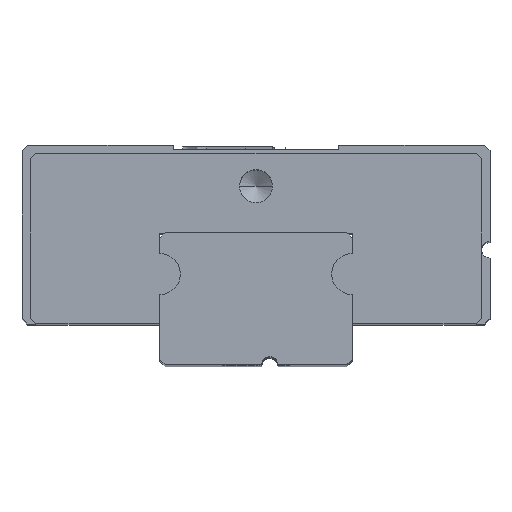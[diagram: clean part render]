
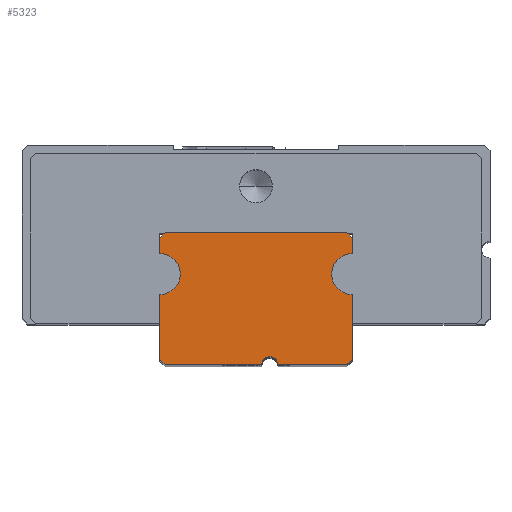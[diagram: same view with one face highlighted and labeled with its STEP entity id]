
A CAD part, top view. The second image highlights one B-rep face of the part: STEP entity #5323.
In plain terms, the highlighted planar face has unit normal (0, 0, 1).
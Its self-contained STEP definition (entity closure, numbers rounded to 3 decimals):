
#21 = DIRECTION ( 'NONE',  ( 0., 0., -1. ) ) ;
#78 = CARTESIAN_POINT ( 'NONE',  ( 3.3, 0., 20. ) ) ;
#110 = CARTESIAN_POINT ( 'NONE',  ( -3.3, 4.8, 20. ) ) ;
#224 = AXIS2_PLACEMENT_3D ( 'NONE', #7960, #5592, #5532 ) ;
#333 = ORIENTED_EDGE ( 'NONE', *, *, #2914, .T. ) ;
#421 = DIRECTION ( 'NONE',  ( 0., -1., 0. ) ) ;
#479 = ORIENTED_EDGE ( 'NONE', *, *, #6308, .F. ) ;
#492 = CARTESIAN_POINT ( 'NONE',  ( 2.75, 3.3, 20. ) ) ;
#527 = DIRECTION ( 'NONE',  ( 0.707, 0.707, 0. ) ) ;
#778 = DIRECTION ( 'NONE',  ( 0., 1., 0. ) ) ;
#830 = VECTOR ( 'NONE', #2478, 1000. ) ;
#833 = CIRCLE ( 'NONE', #10661, 0.75 ) ;
#944 = CARTESIAN_POINT ( 'NONE',  ( 3.5, 4.05, 20. ) ) ;
#987 = ORIENTED_EDGE ( 'NONE', *, *, #9708, .F. ) ;
#1003 = EDGE_CURVE ( 'NONE', #7687, #1557, #6541, .T. ) ;
#1040 = LINE ( 'NONE', #8556, #10302 ) ;
#1044 = VERTEX_POINT ( 'NONE', #6904 ) ;
#1159 = CARTESIAN_POINT ( 'NONE',  ( -3.5, 4.6, 20. ) ) ;
#1209 = EDGE_CURVE ( 'NONE', #4484, #9264, #5754, .T. ) ;
#1226 = DIRECTION ( 'NONE',  ( 0., 0., 1. ) ) ;
#1411 = VERTEX_POINT ( 'NONE', #110 ) ;
#1414 = CARTESIAN_POINT ( 'NONE',  ( 3.5, 0., 20. ) ) ;
#1487 = CARTESIAN_POINT ( 'NONE',  ( -3.5, 0.2, 20. ) ) ;
#1528 = CIRCLE ( 'NONE', #8031, 0.75 ) ;
#1551 = LINE ( 'NONE', #9991, #830 ) ;
#1557 = VERTEX_POINT ( 'NONE', #10778 ) ;
#1601 = VERTEX_POINT ( 'NONE', #8568 ) ;
#1685 = VERTEX_POINT ( 'NONE', #944 ) ;
#1746 = EDGE_CURVE ( 'NONE', #6903, #9264, #8682, .T. ) ;
#1757 = DIRECTION ( 'NONE',  ( 0., 0., -1. ) ) ;
#1768 = EDGE_CURVE ( 'NONE', #1044, #1601, #3636, .T. ) ;
#2037 = DIRECTION ( 'NONE',  ( 0., 0., -1. ) ) ;
#2215 = VECTOR ( 'NONE', #7882, 1000. ) ;
#2478 = DIRECTION ( 'NONE',  ( -1., 0., 0. ) ) ;
#2625 = EDGE_CURVE ( 'NONE', #7687, #1411, #1551, .T. ) ;
#2633 = EDGE_CURVE ( 'NONE', #1601, #8436, #4359, .T. ) ;
#2745 = EDGE_LOOP ( 'NONE', ( #8775, #8065, #10111, #6488, #9329, #7709, #7027, #987, #9202, #479, #6359, #8994, #333, #7120, #6106 ) ) ;
#2791 = VECTOR ( 'NONE', #9494, 1000. ) ;
#2801 = DIRECTION ( 'NONE',  ( -0.707, -0.707, 0. ) ) ;
#2861 = CARTESIAN_POINT ( 'NONE',  ( 3.5, 3.3, 20. ) ) ;
#2897 = LINE ( 'NONE', #1414, #8643 ) ;
#2914 = EDGE_CURVE ( 'NONE', #1685, #1557, #1040, .T. ) ;
#2925 = DIRECTION ( 'NONE',  ( -1., 0., 0. ) ) ;
#3061 = VERTEX_POINT ( 'NONE', #5431 ) ;
#3206 = VECTOR ( 'NONE', #6692, 1000. ) ;
#3236 = CARTESIAN_POINT ( 'NONE',  ( 3.5, 0.2, 20. ) ) ;
#3636 = CIRCLE ( 'NONE', #9742, 0.75 ) ;
#3759 = CARTESIAN_POINT ( 'NONE',  ( 3.5, 2.55, 20. ) ) ;
#4048 = CARTESIAN_POINT ( 'NONE',  ( -3.5, 0., 20. ) ) ;
#4097 = AXIS2_PLACEMENT_3D ( 'NONE', #10100, #1757, #6000 ) ;
#4359 = LINE ( 'NONE', #8411, #5059 ) ;
#4366 = CARTESIAN_POINT ( 'NONE',  ( 0.8, 0., 20. ) ) ;
#4371 = LINE ( 'NONE', #6780, #2791 ) ;
#4484 = VERTEX_POINT ( 'NONE', #6043 ) ;
#4668 = VECTOR ( 'NONE', #527, 1000. ) ;
#4698 = CARTESIAN_POINT ( 'NONE',  ( -3.5, 3.3, 20. ) ) ;
#4836 = LINE ( 'NONE', #3236, #4668 ) ;
#4931 = EDGE_CURVE ( 'NONE', #6903, #1044, #7552, .T. ) ;
#4933 = EDGE_CURVE ( 'NONE', #8546, #1685, #833, .T. ) ;
#5059 = VECTOR ( 'NONE', #8513, 1000. ) ;
#5210 = DIRECTION ( 'NONE',  ( 0., 1., 0. ) ) ;
#5323 = ADVANCED_FACE ( 'NONE', ( #6566 ), #10812, .F. ) ;
#5431 = CARTESIAN_POINT ( 'NONE',  ( 3.5, 0.2, 20. ) ) ;
#5501 = EDGE_CURVE ( 'NONE', #1411, #8436, #10368, .T. ) ;
#5532 = DIRECTION ( 'NONE',  ( -1., 0., 0. ) ) ;
#5592 = DIRECTION ( 'NONE',  ( 0., 0., -1. ) ) ;
#5743 = VERTEX_POINT ( 'NONE', #78 ) ;
#5754 = LINE ( 'NONE', #7404, #3206 ) ;
#6000 = DIRECTION ( 'NONE',  ( 0., -1., 0. ) ) ;
#6043 = CARTESIAN_POINT ( 'NONE',  ( 0.2, 0., 20. ) ) ;
#6106 = ORIENTED_EDGE ( 'NONE', *, *, #2625, .T. ) ;
#6285 = EDGE_CURVE ( 'NONE', #4484, #6751, #8806, .T. ) ;
#6308 = EDGE_CURVE ( 'NONE', #6847, #3061, #2897, .T. ) ;
#6359 = ORIENTED_EDGE ( 'NONE', *, *, #8582, .T. ) ;
#6488 = ORIENTED_EDGE ( 'NONE', *, *, #4931, .F. ) ;
#6541 = LINE ( 'NONE', #9032, #10184 ) ;
#6566 = FACE_OUTER_BOUND ( 'NONE', #2745, .T. ) ;
#6692 = DIRECTION ( 'NONE',  ( -1., 0., 0. ) ) ;
#6751 = VERTEX_POINT ( 'NONE', #4366 ) ;
#6780 = CARTESIAN_POINT ( 'NONE',  ( 0.5, 0., 20. ) ) ;
#6847 = VERTEX_POINT ( 'NONE', #3759 ) ;
#6903 = VERTEX_POINT ( 'NONE', #1487 ) ;
#6904 = CARTESIAN_POINT ( 'NONE',  ( -3.5, 2.55, 20. ) ) ;
#7027 = ORIENTED_EDGE ( 'NONE', *, *, #6285, .T. ) ;
#7120 = ORIENTED_EDGE ( 'NONE', *, *, #1003, .F. ) ;
#7294 = CARTESIAN_POINT ( 'NONE',  ( -3.3, 0., 20. ) ) ;
#7404 = CARTESIAN_POINT ( 'NONE',  ( 0.5, 0., 20. ) ) ;
#7430 = VECTOR ( 'NONE', #2801, 1000. ) ;
#7552 = LINE ( 'NONE', #4048, #7677 ) ;
#7677 = VECTOR ( 'NONE', #778, 1000. ) ;
#7687 = VERTEX_POINT ( 'NONE', #8943 ) ;
#7709 = ORIENTED_EDGE ( 'NONE', *, *, #1209, .F. ) ;
#7882 = DIRECTION ( 'NONE',  ( 0.707, -0.707, 0. ) ) ;
#7960 = CARTESIAN_POINT ( 'NONE',  ( 0.5, 0., 20. ) ) ;
#8031 = AXIS2_PLACEMENT_3D ( 'NONE', #2861, #2037, #2925 ) ;
#8065 = ORIENTED_EDGE ( 'NONE', *, *, #2633, .F. ) ;
#8411 = CARTESIAN_POINT ( 'NONE',  ( -3.5, 0., 20. ) ) ;
#8436 = VERTEX_POINT ( 'NONE', #9995 ) ;
#8513 = DIRECTION ( 'NONE',  ( 0., 1., 0. ) ) ;
#8546 = VERTEX_POINT ( 'NONE', #492 ) ;
#8556 = CARTESIAN_POINT ( 'NONE',  ( 3.5, 4.05, 20. ) ) ;
#8568 = CARTESIAN_POINT ( 'NONE',  ( -3.5, 4.05, 20. ) ) ;
#8582 = EDGE_CURVE ( 'NONE', #6847, #8546, #1528, .T. ) ;
#8643 = VECTOR ( 'NONE', #421, 1000. ) ;
#8682 = LINE ( 'NONE', #10382, #2215 ) ;
#8732 = DIRECTION ( 'NONE',  ( -1., 0., 0. ) ) ;
#8775 = ORIENTED_EDGE ( 'NONE', *, *, #5501, .T. ) ;
#8806 = CIRCLE ( 'NONE', #224, 0.3 ) ;
#8943 = CARTESIAN_POINT ( 'NONE',  ( 3.3, 4.8, 20. ) ) ;
#8994 = ORIENTED_EDGE ( 'NONE', *, *, #4933, .T. ) ;
#9032 = CARTESIAN_POINT ( 'NONE',  ( 3.3, 4.8, 20. ) ) ;
#9124 = DIRECTION ( 'NONE',  ( -1., 0., 0. ) ) ;
#9202 = ORIENTED_EDGE ( 'NONE', *, *, #10563, .T. ) ;
#9264 = VERTEX_POINT ( 'NONE', #7294 ) ;
#9329 = ORIENTED_EDGE ( 'NONE', *, *, #1746, .T. ) ;
#9494 = DIRECTION ( 'NONE',  ( -1., 0., 0. ) ) ;
#9708 = EDGE_CURVE ( 'NONE', #5743, #6751, #4371, .T. ) ;
#9742 = AXIS2_PLACEMENT_3D ( 'NONE', #4698, #1226, #8732 ) ;
#9991 = CARTESIAN_POINT ( 'NONE',  ( 3.5, 4.8, 20. ) ) ;
#9995 = CARTESIAN_POINT ( 'NONE',  ( -3.5, 4.6, 20. ) ) ;
#10100 = CARTESIAN_POINT ( 'NONE',  ( 0.5, 0., 20. ) ) ;
#10111 = ORIENTED_EDGE ( 'NONE', *, *, #1768, .F. ) ;
#10184 = VECTOR ( 'NONE', #10527, 1000. ) ;
#10302 = VECTOR ( 'NONE', #5210, 1000. ) ;
#10368 = LINE ( 'NONE', #1159, #7430 ) ;
#10382 = CARTESIAN_POINT ( 'NONE',  ( -3.3, 0., 20. ) ) ;
#10527 = DIRECTION ( 'NONE',  ( 0.707, -0.707, 0. ) ) ;
#10563 = EDGE_CURVE ( 'NONE', #5743, #3061, #4836, .T. ) ;
#10661 = AXIS2_PLACEMENT_3D ( 'NONE', #10726, #21, #9124 ) ;
#10726 = CARTESIAN_POINT ( 'NONE',  ( 3.5, 3.3, 20. ) ) ;
#10778 = CARTESIAN_POINT ( 'NONE',  ( 3.5, 4.6, 20. ) ) ;
#10812 = PLANE ( 'NONE',  #4097 ) ;
